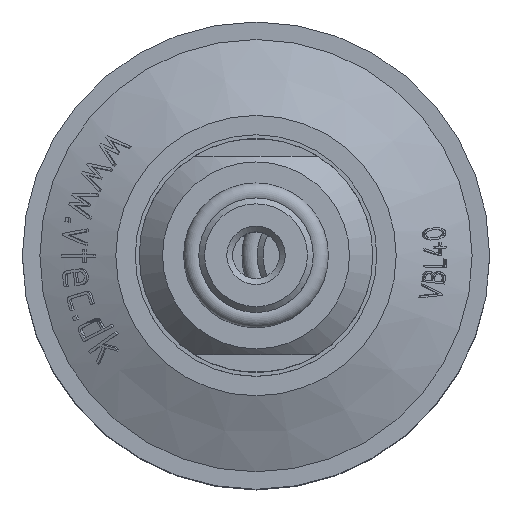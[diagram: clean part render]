
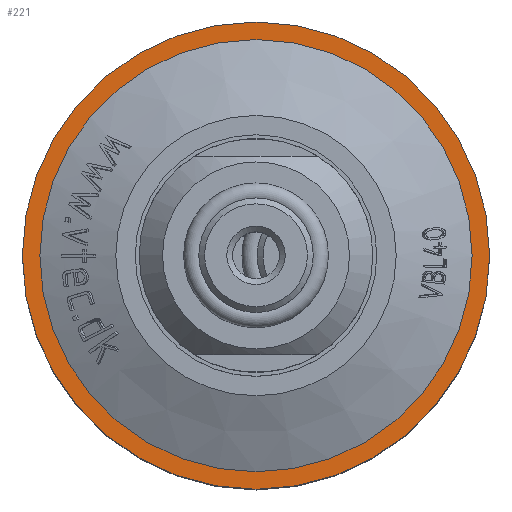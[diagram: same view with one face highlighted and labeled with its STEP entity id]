
A CAD part, top view. The second image highlights one B-rep face of the part: STEP entity #221.
In plain terms, the highlighted planar face has unit normal (0, 0, 1).
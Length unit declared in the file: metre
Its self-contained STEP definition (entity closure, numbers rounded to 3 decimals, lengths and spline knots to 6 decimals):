
#221 = ADVANCED_FACE( '', ( #532, #533 ), #534, .F. );
#532 = FACE_OUTER_BOUND( '', #2168, .T. );
#533 = FACE_BOUND( '', #2169, .T. );
#534 = PLANE( '', #2170 );
#2168 = EDGE_LOOP( '', ( #5507 ) );
#2169 = EDGE_LOOP( '', ( #5508 ) );
#2170 = AXIS2_PLACEMENT_3D( '', #5509, #5510, #5511 );
#5507 = ORIENTED_EDGE( '', *, *, #6668, .F. );
#5508 = ORIENTED_EDGE( '', *, *, #6452, .T. );
#5509 = CARTESIAN_POINT( '', ( -0.02, 0., 0.01295 ) );
#5510 = DIRECTION( '', ( 0., 0., -1. ) );
#5511 = DIRECTION( '', ( -1., 0., 0. ) );
#6452 = EDGE_CURVE( '', #6959, #6959, #6960, .T. );
#6668 = EDGE_CURVE( '', #7356, #7356, #7357, .T. );
#6959 = VERTEX_POINT( '', #7886 );
#6960 = CIRCLE( '', #7887, 0.0185 );
#7356 = VERTEX_POINT( '', #9593 );
#7357 = CIRCLE( '', #9594, 0.02 );
#7886 = CARTESIAN_POINT( '', ( -0.0185, 0., 0.01295 ) );
#7887 = AXIS2_PLACEMENT_3D( '', #10840, #10841, #10842 );
#9593 = CARTESIAN_POINT( '', ( -0.02, 0., 0.01295 ) );
#9594 = AXIS2_PLACEMENT_3D( '', #10870, #10871, #10872 );
#10840 = CARTESIAN_POINT( '', ( 0., 0., 0.01295 ) );
#10841 = DIRECTION( '', ( 0., 0., -1. ) );
#10842 = DIRECTION( '', ( -1., 0., 0. ) );
#10870 = CARTESIAN_POINT( '', ( 0., 0., 0.01295 ) );
#10871 = DIRECTION( '', ( 0., 0., -1. ) );
#10872 = DIRECTION( '', ( -1., 0., 0. ) );
